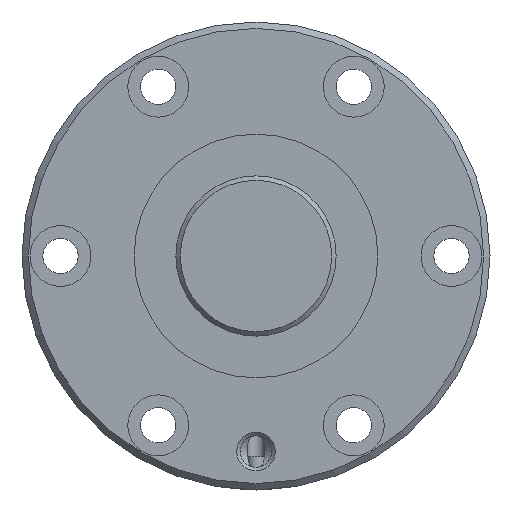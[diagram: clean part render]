
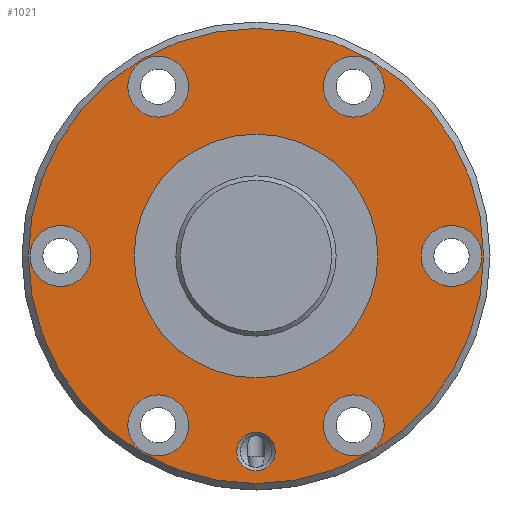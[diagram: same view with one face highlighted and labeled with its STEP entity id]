
A CAD part, left-side view. The second image highlights one B-rep face of the part: STEP entity #1021.
In plain terms, the highlighted planar face has unit normal (-1, 0, 0).
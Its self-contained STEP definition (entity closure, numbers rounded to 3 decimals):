
#162=ORIENTED_EDGE('',*,*,#385,.T.);
#163=ORIENTED_EDGE('',*,*,#386,.T.);
#164=ORIENTED_EDGE('',*,*,#387,.T.);
#165=ORIENTED_EDGE('',*,*,#388,.T.);
#166=ORIENTED_EDGE('',*,*,#389,.T.);
#167=ORIENTED_EDGE('',*,*,#390,.T.);
#168=ORIENTED_EDGE('',*,*,#391,.T.);
#169=ORIENTED_EDGE('',*,*,#392,.T.);
#170=ORIENTED_EDGE('',*,*,#384,.F.);
#384=EDGE_CURVE('',#499,#499,#593,.T.);
#385=EDGE_CURVE('',#500,#500,#594,.T.);
#386=EDGE_CURVE('',#501,#501,#595,.F.);
#387=EDGE_CURVE('',#502,#502,#596,.T.);
#388=EDGE_CURVE('',#503,#503,#597,.T.);
#389=EDGE_CURVE('',#504,#504,#598,.T.);
#390=EDGE_CURVE('',#505,#505,#599,.T.);
#391=EDGE_CURVE('',#506,#506,#600,.T.);
#392=EDGE_CURVE('',#507,#507,#601,.T.);
#499=VERTEX_POINT('',#1708);
#500=VERTEX_POINT('',#1711);
#501=VERTEX_POINT('',#1713);
#502=VERTEX_POINT('',#1715);
#503=VERTEX_POINT('',#1717);
#504=VERTEX_POINT('',#1719);
#505=VERTEX_POINT('',#1721);
#506=VERTEX_POINT('',#1723);
#507=VERTEX_POINT('',#1725);
#593=CIRCLE('',#1136,35.5);
#594=CIRCLE('',#1138,19.);
#595=CIRCLE('',#1139,4.75);
#596=CIRCLE('',#1140,3.);
#597=CIRCLE('',#1141,4.75);
#598=CIRCLE('',#1142,4.75);
#599=CIRCLE('',#1143,4.75);
#600=CIRCLE('',#1144,4.75);
#601=CIRCLE('',#1145,4.75);
#682=EDGE_LOOP('',(#162));
#683=EDGE_LOOP('',(#163));
#684=EDGE_LOOP('',(#164));
#685=EDGE_LOOP('',(#165));
#686=EDGE_LOOP('',(#166));
#687=EDGE_LOOP('',(#167));
#688=EDGE_LOOP('',(#168));
#689=EDGE_LOOP('',(#169));
#690=EDGE_LOOP('',(#170));
#842=FACE_BOUND('',#682,.T.);
#843=FACE_BOUND('',#683,.T.);
#844=FACE_BOUND('',#684,.T.);
#845=FACE_BOUND('',#685,.T.);
#846=FACE_BOUND('',#686,.T.);
#847=FACE_BOUND('',#687,.T.);
#848=FACE_BOUND('',#688,.T.);
#849=FACE_BOUND('',#689,.T.);
#850=FACE_BOUND('',#690,.T.);
#984=PLANE('',#1137);
#1021=ADVANCED_FACE('',(#842,#843,#844,#845,#846,#847,#848,#849,#850),#984,
 .T.);
#1136=AXIS2_PLACEMENT_3D('',#1707,#1322,#1323);
#1137=AXIS2_PLACEMENT_3D('',#1709,#1324,#1325);
#1138=AXIS2_PLACEMENT_3D('',#1710,#1326,#1327);
#1139=AXIS2_PLACEMENT_3D('',#1712,#1328,#1329);
#1140=AXIS2_PLACEMENT_3D('',#1714,#1330,#1331);
#1141=AXIS2_PLACEMENT_3D('',#1716,#1332,#1333);
#1142=AXIS2_PLACEMENT_3D('',#1718,#1334,#1335);
#1143=AXIS2_PLACEMENT_3D('',#1720,#1336,#1337);
#1144=AXIS2_PLACEMENT_3D('',#1722,#1338,#1339);
#1145=AXIS2_PLACEMENT_3D('',#1724,#1340,#1341);
#1322=DIRECTION('',(1.,0.,0.));
#1323=DIRECTION('',(0.,0.,-1.));
#1324=DIRECTION('',(-1.,0.,0.));
#1325=DIRECTION('',(0.,0.,1.));
#1326=DIRECTION('',(1.,0.,0.));
#1327=DIRECTION('',(0.,0.,-1.));
#1328=DIRECTION('',(-1.,0.,0.));
#1329=DIRECTION('',(0.,0.,1.));
#1330=DIRECTION('',(1.,0.,0.));
#1331=DIRECTION('',(0.,0.,-1.));
#1332=DIRECTION('',(1.,0.,0.));
#1333=DIRECTION('',(0.,0.,-1.));
#1334=DIRECTION('',(1.,0.,0.));
#1335=DIRECTION('',(0.,0.,-1.));
#1336=DIRECTION('',(1.,0.,0.));
#1337=DIRECTION('',(0.,0.,-1.));
#1338=DIRECTION('',(1.,0.,0.));
#1339=DIRECTION('',(0.,0.,-1.));
#1340=DIRECTION('',(1.,0.,0.));
#1341=DIRECTION('',(0.,0.,-1.));
#1707=CARTESIAN_POINT('',(0.,0.,0.));
#1708=CARTESIAN_POINT('',(0.,0.,-35.5));
#1709=CARTESIAN_POINT('',(0.,35.5,0.));
#1710=CARTESIAN_POINT('',(0.,0.,0.));
#1711=CARTESIAN_POINT('',(0.,0.,-19.));
#1712=CARTESIAN_POINT('',(0.,30.5,0.));
#1713=CARTESIAN_POINT('',(0.,30.5,4.75));
#1714=CARTESIAN_POINT('',(0.,0.,-30.5));
#1715=CARTESIAN_POINT('',(0.,0.,-33.5));
#1716=CARTESIAN_POINT('',(0.,-30.5,0.));
#1717=CARTESIAN_POINT('',(0.,-30.5,-4.75));
#1718=CARTESIAN_POINT('',(0.,15.25,26.414));
#1719=CARTESIAN_POINT('',(0.,15.25,21.664));
#1720=CARTESIAN_POINT('',(0.,-15.25,-26.414));
#1721=CARTESIAN_POINT('',(0.,-15.25,-31.164));
#1722=CARTESIAN_POINT('',(0.,-15.25,26.414));
#1723=CARTESIAN_POINT('',(0.,-15.25,21.664));
#1724=CARTESIAN_POINT('',(0.,15.25,-26.414));
#1725=CARTESIAN_POINT('',(0.,15.25,-31.164));
